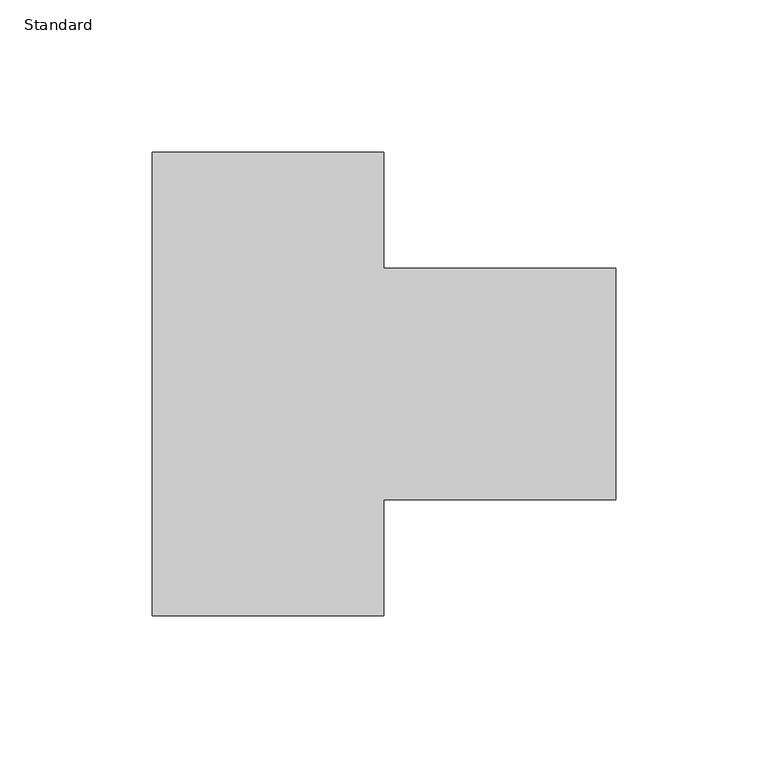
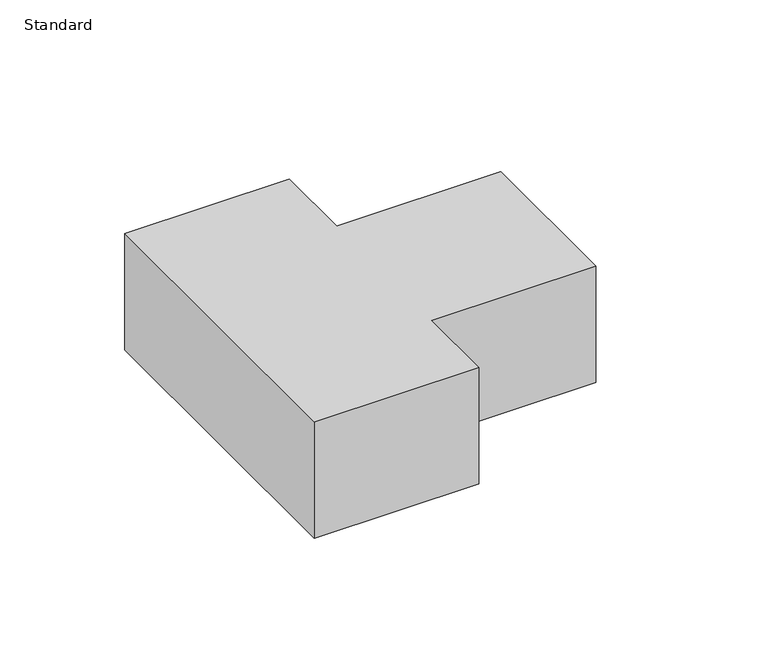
"""IFC4 building model written with IfcOpenShell, lengths in millimetres: proxy geometry, Tee-ALA3800_Series-Wiremold-Flat : Standard."""

from ifc_helpers import new_model, si_unit, origin, origin_with_axes, place, context, project, spatial, polyline, outline, extrude, source, transform, mapped, element, save


def standard_4d54cb33(model_context):
    return source(origin(), model_context, "Body", "SweptSolid", [
        extrude(outline(polyline([(38.1, 76.2), (38.1, 38.1), (114.3, 38.1), (114.3, -38.1), (38.1, -38.1), (38.1, -76.2), (-38.1, -76.2), (-38.1, 76.2), (38.1, 76.2)])), origin_with_axes(), (0.0, 0.0, 1.0), 57.15),
    ])


if __name__ == "__main__":
    model = new_model("IFC4")
    model_context = context("Model", 3, world=origin())
    ifc_project = project(units=[si_unit("LENGTHUNIT", "METRE", prefix="MILLI")], contexts=[model_context])
    site = spatial("IfcSite", under=ifc_project)
    building = spatial("IfcBuilding", under=site)
    placement = place(None, origin())
    standard_shape = standard_4d54cb33(model_context)
    element("IfcBuildingElementProxy", 1, Name="Tee-ALA3800_Series-Wiremold-Flat : Standard", ObjectType="Tee-ALA3800_Series-Wiremold-Flat : Standard", at=placement, inside=building, context=model_context, shape_type="MappedRepresentation", body=[
        mapped(standard_shape, transform((0.0, 0.0, 0.0), x_axis=(1.0, 0.0, 0.0), y_axis=(0.0, 1.0, 0.0), z_axis=(0.0, 0.0, 1.0))),
    ])
    save(model, "model.ifc")
